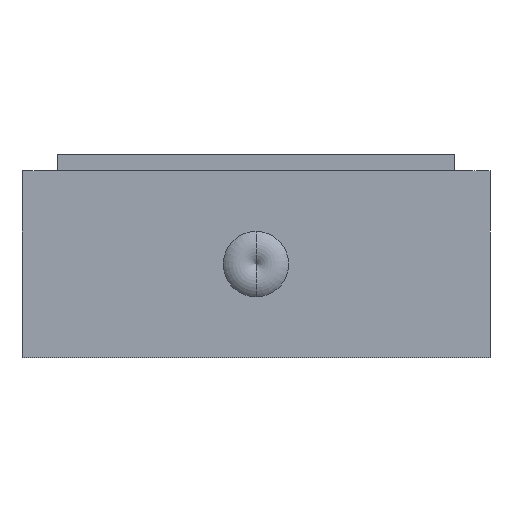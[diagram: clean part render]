
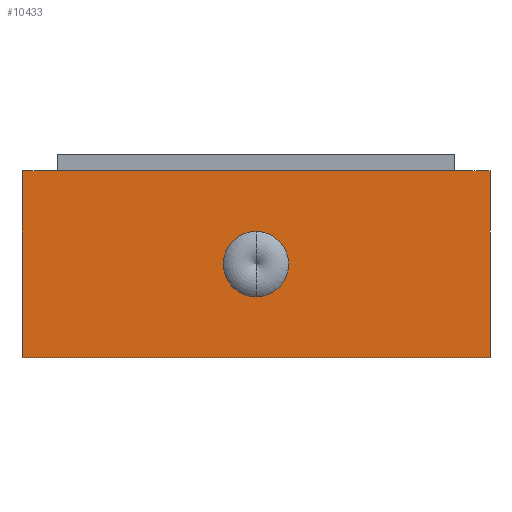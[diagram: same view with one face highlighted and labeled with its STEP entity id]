
A CAD part, front view. The second image highlights one B-rep face of the part: STEP entity #10433.
In plain terms, the highlighted planar face has unit normal (0, -1, 0).
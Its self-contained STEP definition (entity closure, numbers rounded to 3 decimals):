
#10433 = ADVANCED_FACE ( 'NONE', ( #23298, #23297 ), #23295, .T. ) ;
#10434 = EDGE_LOOP ( 'NONE', ( #10435, #10436, #10439, #10442 ) ) ;
#10435 = ORIENTED_EDGE ( 'NONE', *, *, #10854, .F. ) ;
#10436 = ORIENTED_EDGE ( 'NONE', *, *, #10437, .F. ) ;
#10437 = EDGE_CURVE ( 'NONE', #10438, #10863, #23288, .T. ) ;
#10438 = VERTEX_POINT ( 'NONE', #23303 ) ;
#10439 = ORIENTED_EDGE ( 'NONE', *, *, #10440, .T. ) ;
#10440 = EDGE_CURVE ( 'NONE', #10438, #10441, #23316, .T. ) ;
#10441 = VERTEX_POINT ( 'NONE', #23312 ) ;
#10442 = ORIENTED_EDGE ( 'NONE', *, *, #10443, .T. ) ;
#10443 = EDGE_CURVE ( 'NONE', #10441, #10453, #23311, .T. ) ;
#10444 = EDGE_LOOP ( 'NONE', ( #10445, #10446 ) ) ;
#10445 = ORIENTED_EDGE ( 'NONE', *, *, #10594, .T. ) ;
#10446 = ORIENTED_EDGE ( 'NONE', *, *, #10447, .T. ) ;
#10447 = EDGE_CURVE ( 'NONE', #10569, #10571, #23307, .T. ) ;
#10453 = VERTEX_POINT ( 'NONE', #23504 ) ;
#10569 = VERTEX_POINT ( 'NONE', #23729 ) ;
#10571 = VERTEX_POINT ( 'NONE', #23726 ) ;
#10594 = EDGE_CURVE ( 'NONE', #10571, #10569, #24004, .T. ) ;
#10854 = EDGE_CURVE ( 'NONE', #10863, #10453, #26704, .T. ) ;
#10863 = VERTEX_POINT ( 'NONE', #26687 ) ;
#23282 = DIRECTION ( 'NONE',  ( 0., 0., -1. ) ) ;
#23283 = DIRECTION ( 'NONE',  ( 0., -1., 0. ) ) ;
#23284 = CARTESIAN_POINT ( 'NONE',  ( -20.035, -51.5, -16.002 ) ) ;
#23287 = AXIS2_PLACEMENT_3D ( 'NONE', #23284, #23283, #23282 ) ;
#23288 = LINE ( 'NONE', #23306, #23305 ) ;
#23295 = PLANE ( 'NONE',  #23287 ) ;
#23297 = FACE_BOUND ( 'NONE', #10444, .T. ) ;
#23298 = FACE_OUTER_BOUND ( 'NONE', #10434, .T. ) ;
#23299 = DIRECTION ( 'NONE',  ( 0., 0., 1. ) ) ;
#23300 = DIRECTION ( 'NONE',  ( 0., 1., 0. ) ) ;
#23301 = CARTESIAN_POINT ( 'NONE',  ( 0., -51.5, -8.001 ) ) ;
#23302 = AXIS2_PLACEMENT_3D ( 'NONE', #23301, #23300, #23299 ) ;
#23303 = CARTESIAN_POINT ( 'NONE',  ( -20.035, -51.5, -16.002 ) ) ;
#23304 = DIRECTION ( 'NONE',  ( 0., 0., 1. ) ) ;
#23305 = VECTOR ( 'NONE', #23304, 1000. ) ;
#23306 = CARTESIAN_POINT ( 'NONE',  ( -20.035, -51.5, -16.002 ) ) ;
#23307 = CIRCLE ( 'NONE', #23302, 2.797 ) ;
#23308 = DIRECTION ( 'NONE',  ( 0., 0., 1. ) ) ;
#23309 = VECTOR ( 'NONE', #23308, 1000. ) ;
#23310 = CARTESIAN_POINT ( 'NONE',  ( 20.035, -51.5, -16.002 ) ) ;
#23311 = LINE ( 'NONE', #23310, #23309 ) ;
#23312 = CARTESIAN_POINT ( 'NONE',  ( 20.035, -51.5, -16.002 ) ) ;
#23313 = DIRECTION ( 'NONE',  ( 1., 0., 0. ) ) ;
#23314 = VECTOR ( 'NONE', #23313, 1000. ) ;
#23315 = CARTESIAN_POINT ( 'NONE',  ( -20.035, -51.5, -16.002 ) ) ;
#23316 = LINE ( 'NONE', #23315, #23314 ) ;
#23504 = CARTESIAN_POINT ( 'NONE',  ( 20.035, -51.5, 0. ) ) ;
#23726 = CARTESIAN_POINT ( 'NONE',  ( 0., -51.5, -5.204 ) ) ;
#23729 = CARTESIAN_POINT ( 'NONE',  ( 0., -51.5, -10.798 ) ) ;
#23999 = DIRECTION ( 'NONE',  ( 0., 0., 1. ) ) ;
#24001 = DIRECTION ( 'NONE',  ( 0., 1., 0. ) ) ;
#24002 = CARTESIAN_POINT ( 'NONE',  ( 0., -51.5, -8.001 ) ) ;
#24003 = AXIS2_PLACEMENT_3D ( 'NONE', #24002, #24001, #23999 ) ;
#24004 = CIRCLE ( 'NONE', #24003, 2.797 ) ;
#26687 = CARTESIAN_POINT ( 'NONE',  ( -20.035, -51.5, 0. ) ) ;
#26701 = DIRECTION ( 'NONE',  ( 1., 0., 0. ) ) ;
#26702 = VECTOR ( 'NONE', #26701, 1000. ) ;
#26703 = CARTESIAN_POINT ( 'NONE',  ( -20.035, -51.5, 0. ) ) ;
#26704 = LINE ( 'NONE', #26703, #26702 ) ;
